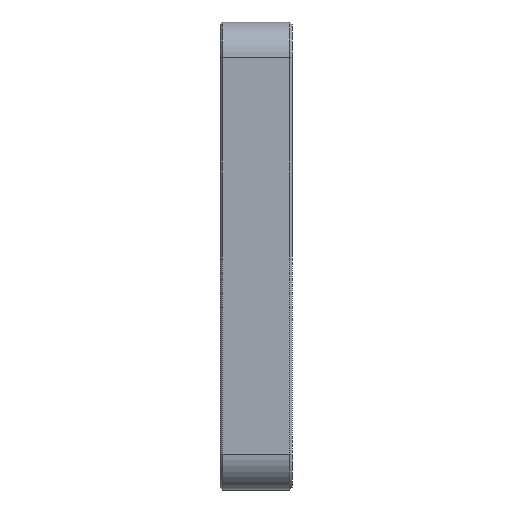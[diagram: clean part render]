
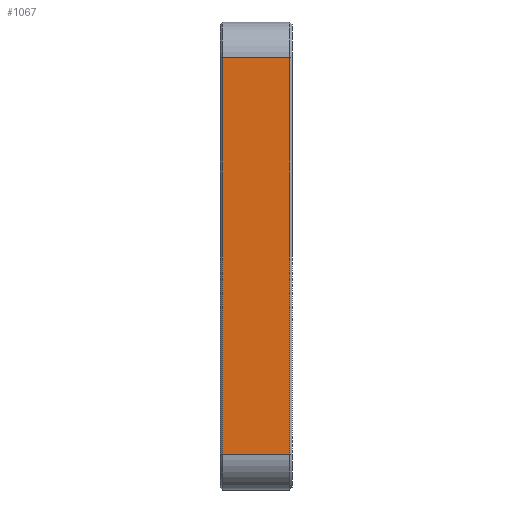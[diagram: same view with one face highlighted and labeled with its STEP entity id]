
A CAD part, left-side view. The second image highlights one B-rep face of the part: STEP entity #1067.
In plain terms, the highlighted planar face has unit normal (-1, 0, 0).
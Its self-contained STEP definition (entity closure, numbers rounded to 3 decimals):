
#39 = VERTEX_POINT ( 'NONE', #879 ) ;
#48 = LINE ( 'NONE', #1217, #1781 ) ;
#60 = CARTESIAN_POINT ( 'NONE',  ( -45., 10., 32.5 ) ) ;
#119 = EDGE_CURVE ( 'NONE', #372, #39, #48, .T. ) ;
#131 = ORIENTED_EDGE ( 'NONE', *, *, #569, .T. ) ;
#354 = LINE ( 'NONE', #634, #979 ) ;
#372 = VERTEX_POINT ( 'NONE', #875 ) ;
#494 = CARTESIAN_POINT ( 'NONE',  ( -45., 10., 27.5 ) ) ;
#512 = DIRECTION ( 'NONE',  ( 1., 0., 0. ) ) ;
#569 = EDGE_CURVE ( 'NONE', #39, #1473, #1832, .T. ) ;
#624 = DIRECTION ( 'NONE',  ( 0., 0., -1. ) ) ;
#634 = CARTESIAN_POINT ( 'NONE',  ( -45., 10., -27.5 ) ) ;
#658 = AXIS2_PLACEMENT_3D ( 'NONE', #60, #512, #624 ) ;
#662 = ORIENTED_EDGE ( 'NONE', *, *, #119, .T. ) ;
#817 = ORIENTED_EDGE ( 'NONE', *, *, #1846, .T. ) ;
#875 = CARTESIAN_POINT ( 'NONE',  ( -45., 0.3, -27.5 ) ) ;
#879 = CARTESIAN_POINT ( 'NONE',  ( -45., 0.3, 27.5 ) ) ;
#914 = EDGE_LOOP ( 'NONE', ( #1454, #662, #131, #817 ) ) ;
#965 = EDGE_CURVE ( 'NONE', #1670, #372, #354, .T. ) ;
#979 = VECTOR ( 'NONE', #1083, 1000. ) ;
#1067 = ADVANCED_FACE ( 'NONE', ( #1822 ), #1372, .F. ) ;
#1083 = DIRECTION ( 'NONE',  ( 0., -1., 0. ) ) ;
#1097 = DIRECTION ( 'NONE',  ( 0., 1., 0. ) ) ;
#1203 = LINE ( 'NONE', #1518, #1886 ) ;
#1217 = CARTESIAN_POINT ( 'NONE',  ( -45., 0.3, 27.5 ) ) ;
#1372 = PLANE ( 'NONE',  #658 ) ;
#1454 = ORIENTED_EDGE ( 'NONE', *, *, #965, .T. ) ;
#1468 = CARTESIAN_POINT ( 'NONE',  ( -45., 9.7, -27.5 ) ) ;
#1473 = VERTEX_POINT ( 'NONE', #1491 ) ;
#1491 = CARTESIAN_POINT ( 'NONE',  ( -45., 9.7, 27.5 ) ) ;
#1506 = VECTOR ( 'NONE', #1097, 1000. ) ;
#1518 = CARTESIAN_POINT ( 'NONE',  ( -45., 9.7, 32.5 ) ) ;
#1639 = DIRECTION ( 'NONE',  ( 0., 0., 1. ) ) ;
#1670 = VERTEX_POINT ( 'NONE', #1468 ) ;
#1781 = VECTOR ( 'NONE', #1639, 1000. ) ;
#1784 = DIRECTION ( 'NONE',  ( 0., 0., -1. ) ) ;
#1822 = FACE_OUTER_BOUND ( 'NONE', #914, .T. ) ;
#1832 = LINE ( 'NONE', #494, #1506 ) ;
#1846 = EDGE_CURVE ( 'NONE', #1473, #1670, #1203, .T. ) ;
#1886 = VECTOR ( 'NONE', #1784, 1000. ) ;
